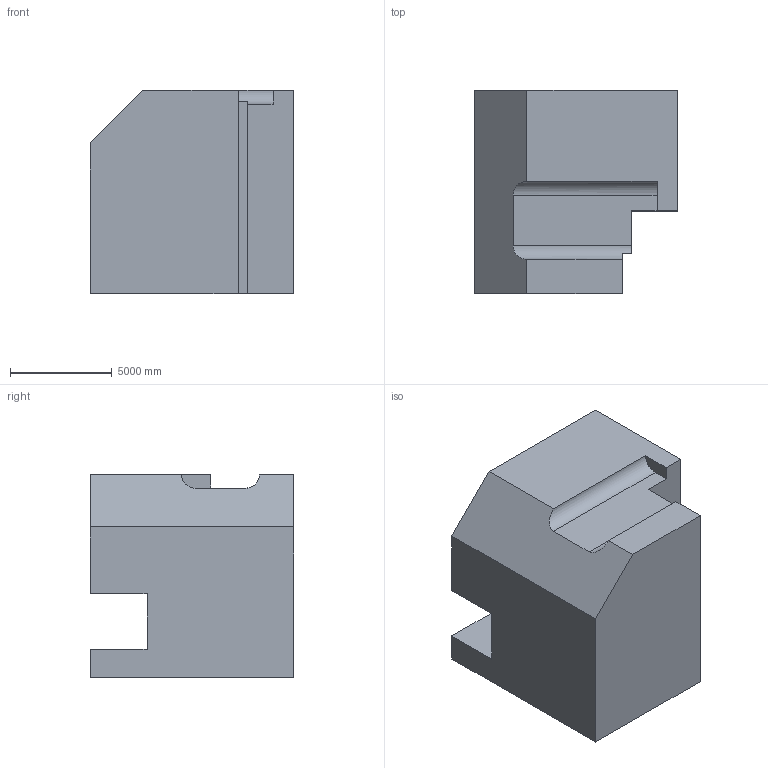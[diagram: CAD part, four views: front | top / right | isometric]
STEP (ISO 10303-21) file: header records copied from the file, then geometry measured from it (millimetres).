
FILE_DESCRIPTION (( 'STEP AP203' ), '1' );
FILE_NAME ('580.STEP', '2022-07-29T11:55:26', ( 'user' ), ( '' ), 'SwSTEP 2.0', 'SolidWorks 2021', '' );
FILE_SCHEMA (( 'CONFIG_CONTROL_DESIGN' ));
Length unit declared in the file: centimetre
Products named in the file (1): 580
Bounding box: 10000 x 10000 x 10000 mm (x, y, z)
Volume: 772468608456.1 mm3; surface area: 603583089 mm2
Topology: 1 solids, 1 shells, 25 faces, 66 edges, 44 vertices
Faces by surface type: plane 23, cylinder 2
Entity records: 840 total; most frequent: CARTESIAN_POINT 142, ORIENTED_EDGE 132, DIRECTION 119, EDGE_CURVE 66, LINE 61, VECTOR 61, VERTEX_POINT 44, AXIS2_PLACEMENT_3D 29
